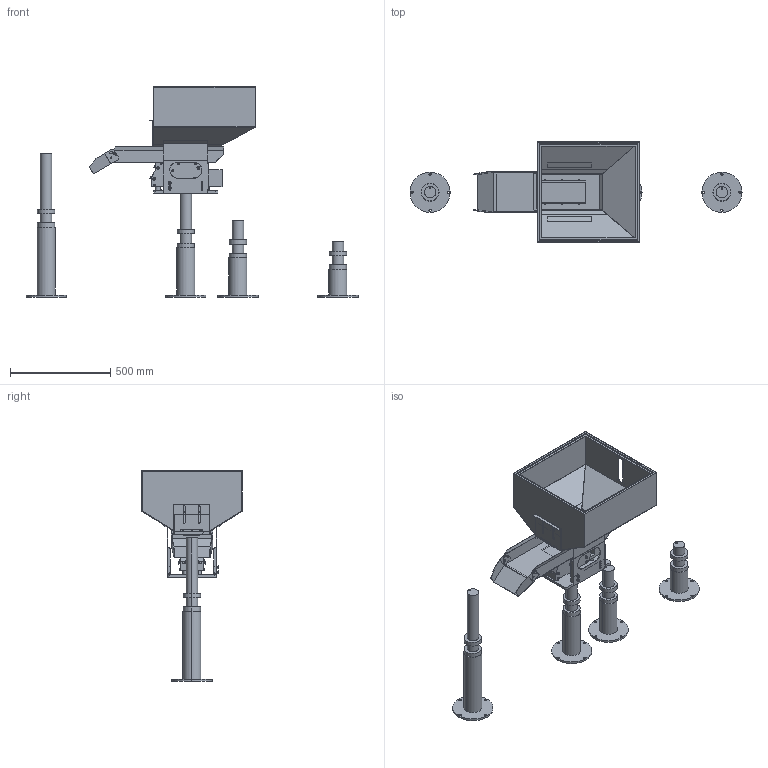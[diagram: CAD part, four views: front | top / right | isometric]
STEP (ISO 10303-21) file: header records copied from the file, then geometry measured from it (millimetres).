
FILE_DESCRIPTION (( 'STEP AP203' ), '1' );
FILE_NAME ('500蹋累 盓翐恁倰.STEP', '2025-07-11T09:20:15', ( '' ), ( '' ), 'SwSTEP 2.0', 'SolidWorks 2022', '' );
FILE_SCHEMA (( 'CONFIG_CONTROL_DESIGN' ));
Length unit declared in the file: millimetre
Products named in the file (1): 500蹋累 盓翐恁倰
Bounding box: 1652.25 x 500 x 1045.86 mm (x, y, z)
Surface area: 3534275.8 mm2 (no closed solid volume)
Topology: 0 solids, 37 shells, 1226 faces, 3153 edges, 1991 vertices
Faces by surface type: plane 704, cylinder 382, cone 76, bspline 64
Entity records: 49415 total; most frequent: CARTESIAN_POINT 25501, ORIENTED_EDGE 6084, EDGE_CURVE 3081, DIRECTION 2904, B_SPLINE_CURVE_WITH_KNOTS 2548, VERTEX_POINT 1991, EDGE_LOOP 1469, AXIS2_PLACEMENT_3D 1391
